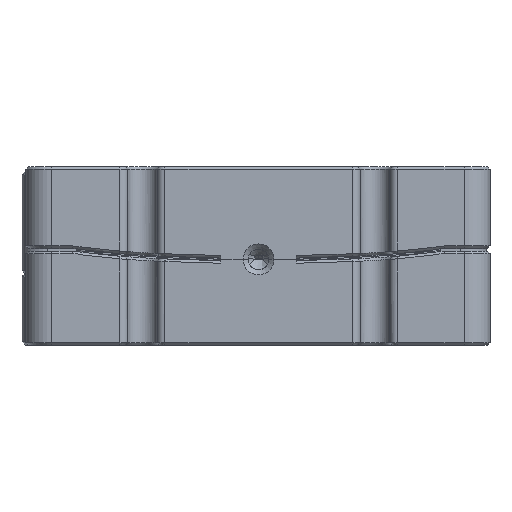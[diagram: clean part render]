
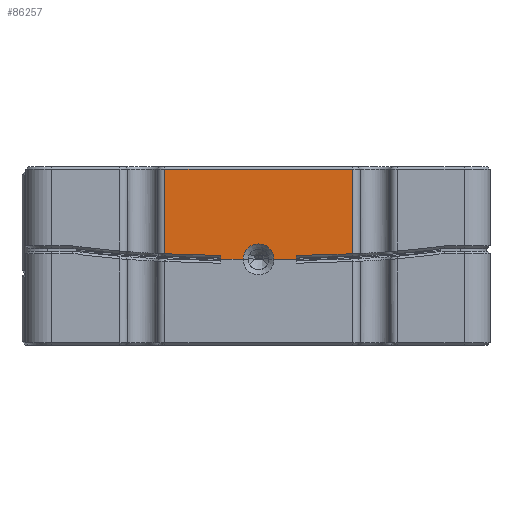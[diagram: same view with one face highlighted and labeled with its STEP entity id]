
A CAD part, front view. The second image highlights one B-rep face of the part: STEP entity #86257.
In plain terms, the highlighted planar face has unit normal (0, -1, 0).
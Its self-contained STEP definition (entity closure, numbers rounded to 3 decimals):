
#1323=CIRCLE('',#91298,6.);
#2250=PLANE('',#91297);
#3465=FACE_OUTER_BOUND('',#8555,.T.);
#8555=EDGE_LOOP('',(#57082,#57083,#57084,#57085,#57086,#57087,#57088,#57089,
#57090,#57091,#57092,#57093));
#13876=B_SPLINE_CURVE_WITH_KNOTS('',3,(#134765,#134766,#134767,#134768,
#134769,#134770,#134771,#134772,#134773,#134774),.UNSPECIFIED.,.F.,.F.,
(4,1,1,1,1,1,1,4),(2.6,2.739,2.878,3.017,
3.157,3.296,3.365,3.574),
 .UNSPECIFIED.);
#13887=B_SPLINE_CURVE_WITH_KNOTS('',3,(#135211,#135212,#135213,#135214),
 .UNSPECIFIED.,.F.,.F.,(4,4),(-0.005,0.),
 .UNSPECIFIED.);
#13936=B_SPLINE_CURVE_WITH_KNOTS('',3,(#136981,#136982,#136983,#136984,
#136985,#136986,#136987,#136988,#136989),.UNSPECIFIED.,.F.,.F.,(4,1,1,1,
1,1,4),(24.853,25.362,25.871,26.126,
26.381,26.89,28.418),.UNSPECIFIED.);
#13938=B_SPLINE_CURVE_WITH_KNOTS('',3,(#137017,#137018,#137019,#137020),
 .UNSPECIFIED.,.F.,.F.,(4,4),(0.584,0.588),
 .UNSPECIFIED.);
#21901=LINE('',#137126,#26606);
#21946=LINE('',#137245,#26651);
#21947=LINE('',#137249,#26652);
#21948=LINE('',#137250,#26653);
#21949=LINE('',#137252,#26654);
#21950=LINE('',#137254,#26655);
#21951=LINE('',#137257,#26656);
#26606=VECTOR('',#94519,10.);
#26651=VECTOR('',#94652,10.);
#26652=VECTOR('',#94657,10.);
#26653=VECTOR('',#94658,10.);
#26654=VECTOR('',#94659,10.);
#26655=VECTOR('',#94660,10.);
#26656=VECTOR('',#94663,10.);
#31702=VERTEX_POINT('',#134744);
#31705=VERTEX_POINT('',#134763);
#31706=VERTEX_POINT('',#134807);
#31791=VERTEX_POINT('',#136890);
#31793=VERTEX_POINT('',#136973);
#31794=VERTEX_POINT('',#136980);
#31797=VERTEX_POINT('',#137124);
#31827=VERTEX_POINT('',#137244);
#31828=VERTEX_POINT('',#137248);
#31829=VERTEX_POINT('',#137251);
#31830=VERTEX_POINT('',#137253);
#31831=VERTEX_POINT('',#137255);
#41341=EDGE_CURVE('',#31705,#31702,#13876,.T.);
#41358=EDGE_CURVE('',#31706,#31705,#13887,.T.);
#41464=EDGE_CURVE('',#31793,#31794,#13936,.T.);
#41467=EDGE_CURVE('',#31794,#31791,#13938,.T.);
#41479=EDGE_CURVE('',#31797,#31706,#21901,.T.);
#41538=EDGE_CURVE('',#31791,#31827,#21946,.T.);
#41540=EDGE_CURVE('',#31702,#31828,#21947,.T.);
#41541=EDGE_CURVE('',#31827,#31797,#21948,.T.);
#41542=EDGE_CURVE('',#31793,#31829,#21949,.T.);
#41543=EDGE_CURVE('',#31830,#31829,#21950,.T.);
#41544=EDGE_CURVE('',#31831,#31830,#1323,.T.);
#41545=EDGE_CURVE('',#31831,#31828,#21951,.T.);
#57082=ORIENTED_EDGE('',*,*,#41540,.F.);
#57083=ORIENTED_EDGE('',*,*,#41341,.F.);
#57084=ORIENTED_EDGE('',*,*,#41358,.F.);
#57085=ORIENTED_EDGE('',*,*,#41479,.F.);
#57086=ORIENTED_EDGE('',*,*,#41541,.F.);
#57087=ORIENTED_EDGE('',*,*,#41538,.F.);
#57088=ORIENTED_EDGE('',*,*,#41467,.F.);
#57089=ORIENTED_EDGE('',*,*,#41464,.F.);
#57090=ORIENTED_EDGE('',*,*,#41542,.T.);
#57091=ORIENTED_EDGE('',*,*,#41543,.F.);
#57092=ORIENTED_EDGE('',*,*,#41544,.F.);
#57093=ORIENTED_EDGE('',*,*,#41545,.T.);
#86257=ADVANCED_FACE('',(#3465),#2250,.T.);
#91297=AXIS2_PLACEMENT_3D('',#137247,#94655,#94656);
#91298=AXIS2_PLACEMENT_3D('',#137256,#94661,#94662);
#94519=DIRECTION('',(0.,0.,-1.));
#94652=DIRECTION('',(0.,0.,1.));
#94655=DIRECTION('center_axis',(0.,-1.,0.));
#94656=DIRECTION('ref_axis',(1.,0.,0.));
#94657=DIRECTION('',(0.,0.,-1.));
#94658=DIRECTION('',(1.,0.,0.));
#94659=DIRECTION('',(0.,0.,-1.));
#94660=DIRECTION('',(-1.,0.,0.));
#94661=DIRECTION('center_axis',(0.,-1.,0.));
#94662=DIRECTION('ref_axis',(-1.,0.,0.));
#94663=DIRECTION('',(1.,0.,0.));
#134744=CARTESIAN_POINT('',(-180.122,-52.843,3.701));
#134763=CARTESIAN_POINT('',(-158.422,-52.843,4.352));
#134765=CARTESIAN_POINT('Ctrl Pts',(-158.422,-52.843,
4.352));
#134766=CARTESIAN_POINT('Ctrl Pts',(-159.831,-52.843,
4.285));
#134767=CARTESIAN_POINT('Ctrl Pts',(-162.616,-52.843,
4.161));
#134768=CARTESIAN_POINT('Ctrl Pts',(-166.568,-52.843,
4.006));
#134769=CARTESIAN_POINT('Ctrl Pts',(-170.262,-52.843,
3.881));
#134770=CARTESIAN_POINT('Ctrl Pts',(-173.502,-52.843,
3.792));
#134771=CARTESIAN_POINT('Ctrl Pts',(-175.669,-52.843,
3.747));
#134772=CARTESIAN_POINT('Ctrl Pts',(-177.957,-52.843,
3.712));
#134773=CARTESIAN_POINT('Ctrl Pts',(-179.229,-52.843,
3.703));
#134774=CARTESIAN_POINT('Ctrl Pts',(-180.122,-52.843,
3.701));
#134807=CARTESIAN_POINT('',(-158.375,-52.843,4.354));
#135211=CARTESIAN_POINT('Ctrl Pts',(-158.375,-52.843,
4.354));
#135212=CARTESIAN_POINT('Ctrl Pts',(-158.391,-52.843,
4.353));
#135213=CARTESIAN_POINT('Ctrl Pts',(-158.406,-52.843,
4.352));
#135214=CARTESIAN_POINT('Ctrl Pts',(-158.422,-52.843,
4.352));
#136890=CARTESIAN_POINT('',(-231.062,-52.843,4.353));
#136973=CARTESIAN_POINT('',(-209.375,-52.843,3.701));
#136980=CARTESIAN_POINT('',(-231.015,-52.843,4.351));
#136981=CARTESIAN_POINT('Ctrl Pts',(-209.375,-52.843,
3.701));
#136982=CARTESIAN_POINT('Ctrl Pts',(-210.057,-52.843,
3.702));
#136983=CARTESIAN_POINT('Ctrl Pts',(-211.456,-52.843,
3.711));
#136984=CARTESIAN_POINT('Ctrl Pts',(-213.572,-52.843,
3.743));
#136985=CARTESIAN_POINT('Ctrl Pts',(-215.538,-52.843,
3.785));
#136986=CARTESIAN_POINT('Ctrl Pts',(-217.565,-52.843,
3.835));
#136987=CARTESIAN_POINT('Ctrl Pts',(-222.437,-52.843,
3.98));
#136988=CARTESIAN_POINT('Ctrl Pts',(-227.296,-52.843,
4.175));
#136989=CARTESIAN_POINT('Ctrl Pts',(-231.015,-52.843,
4.351));
#137017=CARTESIAN_POINT('Ctrl Pts',(-231.015,-52.843,
4.351));
#137018=CARTESIAN_POINT('Ctrl Pts',(-231.031,-52.843,
4.351));
#137019=CARTESIAN_POINT('Ctrl Pts',(-231.047,-52.843,
4.352));
#137020=CARTESIAN_POINT('Ctrl Pts',(-231.062,-52.843,
4.353));
#137124=CARTESIAN_POINT('',(-158.375,-52.843,37.174));
#137126=CARTESIAN_POINT('',(-158.375,-52.843,7.));
#137244=CARTESIAN_POINT('',(-231.062,-52.843,37.174));
#137245=CARTESIAN_POINT('',(-231.062,-52.843,7.));
#137247=CARTESIAN_POINT('Origin',(-150.875,-52.843,7.));
#137248=CARTESIAN_POINT('',(-180.122,-52.843,2.183));
#137249=CARTESIAN_POINT('',(-180.122,-52.843,7.));
#137250=CARTESIAN_POINT('',(-172.937,-52.843,37.174));
#137251=CARTESIAN_POINT('',(-209.375,-52.843,2.183));
#137252=CARTESIAN_POINT('',(-209.375,-52.843,7.));
#137253=CARTESIAN_POINT('',(-200.748,-52.843,2.183));
#137254=CARTESIAN_POINT('',(-180.122,-52.843,2.183));
#137255=CARTESIAN_POINT('',(-188.748,-52.843,2.183));
#137256=CARTESIAN_POINT('Origin',(-194.748,-52.843,2.183));
#137257=CARTESIAN_POINT('',(-162.998,-52.843,2.183));
